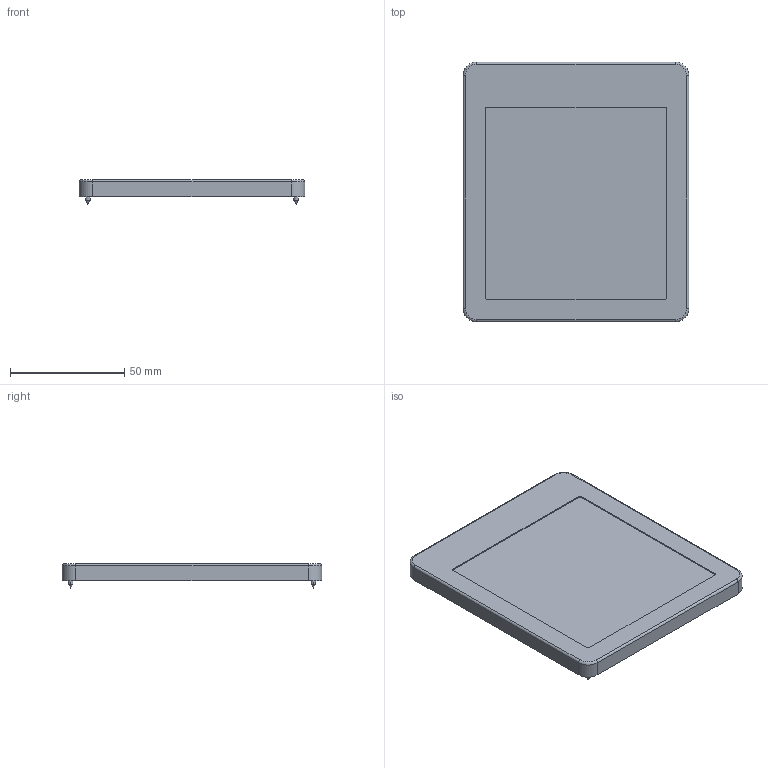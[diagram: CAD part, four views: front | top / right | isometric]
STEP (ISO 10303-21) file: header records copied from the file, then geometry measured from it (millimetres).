
FILE_DESCRIPTION((''),'2;1');
FILE_NAME('UC007-SWITCH_ASM','2024-04-10T',('Administrator'),(''),'PRO/ENGINEER BY PARAMETRIC TECHNOLOGY CORPORATION, 2009360','PRO/ENGINEER BY PARAMETRIC TECHNOLOGY CORPORATION, 2009360','');
FILE_SCHEMA(('CONFIG_CONTROL_DESIGN'));
Length unit declared in the file: millimetre
Products named in the file (16): PLASTIC_BENTI; DAOREJIAO; FPC; EVA; FANGUANZHI; PMMA; PS; PA2X8; PCB-SWITCH; SWITCH; GAIBAN-SWITCH; KAIGUANMAO; MIANGAI-SWITCH; KA2X5; CITIE-3X6; UC007-SWITCH_ASM
Assembly tree (24 placements, depth 2):
  UC007-SWITCH_ASM
    PLASTIC_BENTI
    DAOREJIAO
    FPC
    EVA
    FANGUANZHI
    PMMA
    PS
    PA2X8  x4
    PCB-SWITCH
    SWITCH
    GAIBAN-SWITCH
    KAIGUANMAO
    MIANGAI-SWITCH
    KA2X5  x2
    CITIE-3X6  x6
Bounding box: 99 x 114 x 10.83 mm (x, y, z)
Volume: 63824 mm3; surface area: 120402.9 mm2
Topology: 24 solids, 24 shells, 1613 faces, 4256 edges, 2754 vertices
Faces by surface type: plane 1142, cylinder 331, torus 64, cone 42, sphere 30, bspline 4
Entity records: 45957 total; most frequent: CARTESIAN_POINT 8264, ORIENTED_EDGE 7804, DIRECTION 7650, EDGE_CURVE 3902, VECTOR 3134, LINE 3134, VERTEX_POINT 2543, AXIS2_PLACEMENT_3D 2258
